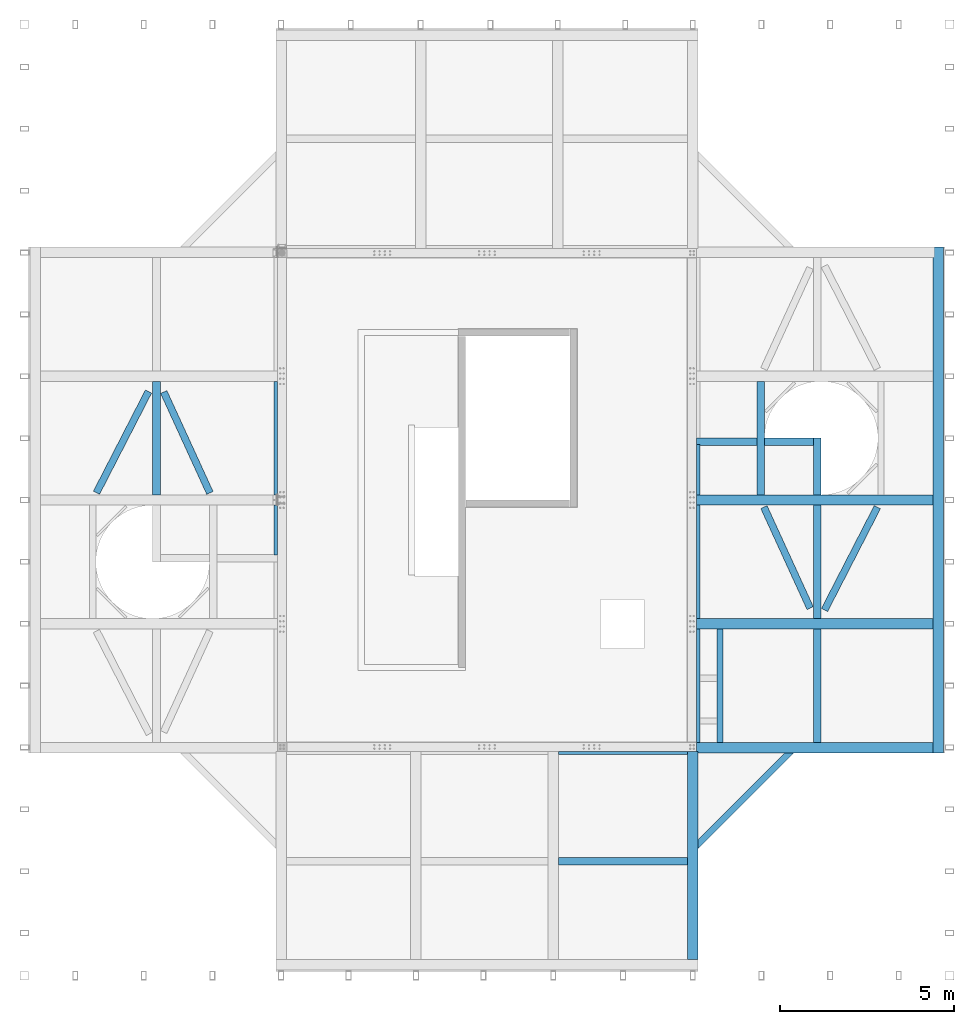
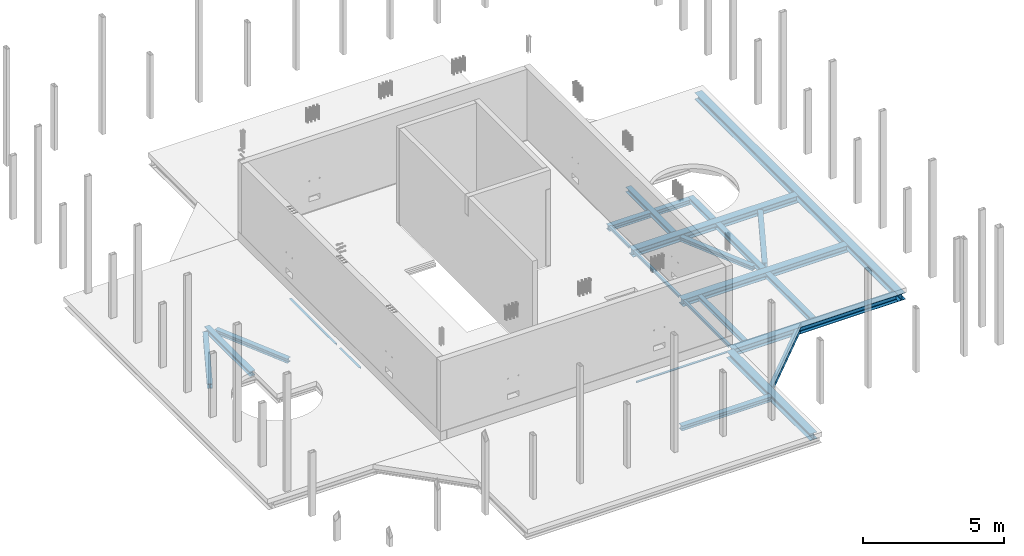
# One storey, part 8 of 16: 25 beams.
"""IFC2X3 building model written with IfcOpenShell, lengths in millimetres."""

from ifc_helpers import new_model, entity, si_unit, converted_unit, derived_unit, direction, frame, frame_2d, origin, place, context, subcontext, project, spatial, polyline, circle_curve, parameter, trimmed, segment, composite_curve, i_section, outline, extrude, clip, halfspace, material, type_object, element, save


model = new_model("IFC2X3")

# Units and contexts
model_context = context("Model", 3, precision=0.01, world=origin(), true_north=direction((6.12303176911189e-17, 1.0)))
body_context = subcontext(model_context, "Body", "Model", "MODEL_VIEW")
ifc_project = project(units=[si_unit("LENGTHUNIT", "METRE", prefix="MILLI"), si_unit("AREAUNIT", "SQUARE_METRE"), si_unit("VOLUMEUNIT", "CUBIC_METRE"), converted_unit("PLANEANGLEUNIT", "DEGREE", entity("IfcRatioMeasure", 0.0174532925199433), si_unit("PLANEANGLEUNIT", "RADIAN"), dimensions=[0, 0, 0, 0, 0, 0, 0]), si_unit("MASSUNIT", "GRAM", prefix="KILO"), derived_unit("MASSDENSITYUNIT", [(si_unit("MASSUNIT", "GRAM", prefix="KILO"), 1), (si_unit("LENGTHUNIT", "METRE"), -3)]), si_unit("TIMEUNIT", "SECOND"), si_unit("FREQUENCYUNIT", "HERTZ"), si_unit("THERMODYNAMICTEMPERATUREUNIT", "DEGREE_CELSIUS"), derived_unit("THERMALTRANSMITTANCEUNIT", [(si_unit("MASSUNIT", "GRAM", prefix="KILO"), 1), (si_unit("THERMODYNAMICTEMPERATUREUNIT", "KELVIN"), -1), (si_unit("TIMEUNIT", "SECOND"), -3)]), derived_unit("VOLUMETRICFLOWRATEUNIT", [(si_unit("LENGTHUNIT", "METRE"), 3), (si_unit("TIMEUNIT", "SECOND"), -1)]), si_unit("ELECTRICCURRENTUNIT", "AMPERE"), si_unit("ELECTRICVOLTAGEUNIT", "VOLT"), si_unit("POWERUNIT", "WATT"), si_unit("FORCEUNIT", "NEWTON", prefix="KILO"), si_unit("ILLUMINANCEUNIT", "LUX"), si_unit("LUMINOUSFLUXUNIT", "LUMEN"), si_unit("LUMINOUSINTENSITYUNIT", "CANDELA"), derived_unit("USERDEFINED", [(si_unit("MASSUNIT", "GRAM", prefix="KILO"), -1), (si_unit("LENGTHUNIT", "METRE"), -2), (si_unit("TIMEUNIT", "SECOND"), 3), (si_unit("LUMINOUSFLUXUNIT", "LUMEN"), 1)]), derived_unit("LINEARVELOCITYUNIT", [(si_unit("LENGTHUNIT", "METRE"), 1), (si_unit("TIMEUNIT", "SECOND"), -1)]), si_unit("PRESSUREUNIT", "PASCAL"), derived_unit("USERDEFINED", [(si_unit("LENGTHUNIT", "METRE"), -2), (si_unit("MASSUNIT", "GRAM", prefix="KILO"), 1), (si_unit("TIMEUNIT", "SECOND"), -2)])], contexts=[model_context])

# Site, building, storey
site_placement = place(None, origin())
site = spatial("IfcSite", under=ifc_project, at=site_placement, Name="Default", CompositionType="ELEMENT")
building_placement = place(site_placement, origin())
building = spatial("IfcBuilding", under=site, at=building_placement, Name="niet gebruiken", CompositionType="ELEMENT")
storey_placement = place(building_placement, frame((0.0, 0.0, 183150.0)))
storey = spatial("IfcBuildingStorey", under=building, at=storey_placement, Name="58 achtenvijftigste verdieping", CompositionType="ELEMENT", Elevation=183150.0)

# Beams
ifc_material = material(Name="NLRS_h2_staal")
beam_type_1 = type_object("IfcBeamType", Name="NLRS_28.11_SF_WPB_stalen ligger HEA_gen:ligger HEA 200", PredefinedType="BEAM")
beam_1_placement = place(storey_placement, frame((151220.0, 13950.0, -570.0), z_axis=(0.0, 0.0, 1.0), x_axis=(0.457206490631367, 0.889360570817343, 0.0)))
element("IfcBeam", 1, at=beam_1_placement, inside=storey, type_object=beam_type_1, material=ifc_material, Name="NLRS_28.11_SF_WPB_stalen ligger HEA_gen:ligger HEA 200", ObjectType="NLRS_28.11_SF_WPB_stalen ligger HEA_gen:ligger HEA 200", context=body_context, shape_type="SweptSolid", body=[
    extrude(i_section(OverallWidth=200.000000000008, OverallDepth=189.999999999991, WebThickness=6.49999999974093, FlangeThickness=9.99999999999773, FilletRadius=17.9999999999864, at=frame_2d((0.0, -1.83888460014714e-11), x_axis=(0.0, 1.0))), frame((445.068952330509, 0.0, -95.0), z_axis=(1.0, 0.0, 0.0), x_axis=(0.0, 0.0, -1.0)), (0.0, 0.0, 1.0), 3313.79396714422),
])
beam_2_placement = place(storey_placement, frame((151220.0, 13950.0, -570.0), z_axis=(0.0, 0.0, 1.0), x_axis=(-0.416213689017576, 0.909266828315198, 0.0)))
element("IfcBeam", 2, at=beam_2_placement, inside=storey, type_object=beam_type_1, material=ifc_material, Name="NLRS_28.11_SF_WPB_stalen ligger HEA_gen:ligger HEA 200", ObjectType="NLRS_28.11_SF_WPB_stalen ligger HEA_gen:ligger HEA 200", context=body_context, shape_type="SweptSolid", body=[
    extrude(i_section(OverallWidth=200.000000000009, OverallDepth=189.999999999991, WebThickness=6.49999999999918, FlangeThickness=9.99999999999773, FilletRadius=17.9999999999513, at=frame_2d((0.0, -4.47641923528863e-13), x_axis=(0.0, 1.0))), frame((495.929224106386, 0.0, -95.0), z_axis=(1.0, 0.0, 0.0), x_axis=(0.0, 0.0, -1.0)), (0.0, 0.0, 1.0), 3184.87253634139),
])
beam_3_placement = place(storey_placement, frame((132280.0, 21050.0, -570.0), z_axis=(0.0, 0.0, 1.0), x_axis=(0.41621368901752, -0.909266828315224, 0.0)))
element("IfcBeam", 3, at=beam_3_placement, inside=storey, type_object=beam_type_1, material=ifc_material, Name="NLRS_28.11_SF_WPB_stalen ligger HEA_gen:ligger HEA 200", ObjectType="NLRS_28.11_SF_WPB_stalen ligger HEA_gen:ligger HEA 200", context=body_context, shape_type="SweptSolid", body=[
    extrude(i_section(OverallWidth=200.000000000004, OverallDepth=189.999999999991, WebThickness=6.50000000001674, FlangeThickness=9.99999999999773, FilletRadius=17.999999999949, at=frame_2d((0.0, 1.84599002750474e-11), x_axis=(0.0, 1.0))), frame((500.742724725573, 0.0, -95.0), z_axis=(1.0, 0.0, 0.0), x_axis=(0.0, 0.0, -1.0)), (0.0, 0.0, 1.0), 3180.05903572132),
])
beam_4_placement = place(storey_placement, frame((132280.0, 21050.0, -570.0), z_axis=(0.0, 0.0, 1.0), x_axis=(-0.457206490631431, -0.88936057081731, 0.0)))
element("IfcBeam", 4, at=beam_4_placement, inside=storey, type_object=beam_type_1, material=ifc_material, Name="NLRS_28.11_SF_WPB_stalen ligger HEA_gen:ligger HEA 200", ObjectType="NLRS_28.11_SF_WPB_stalen ligger HEA_gen:ligger HEA 200", context=body_context, shape_type="SweptSolid", body=[
    extrude(i_section(OverallWidth=199.999999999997, OverallDepth=189.999999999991, WebThickness=6.50000000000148, FlangeThickness=9.99999999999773, FilletRadius=17.9999999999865, at=frame_2d((0.0, 0.0), x_axis=(0.0, 1.0))), frame((495.929224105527, 0.0, -95.0), z_axis=(1.0, 0.0, 0.0), x_axis=(0.0, 0.0, -1.0)), (0.0, 0.0, 1.0), 3262.93369536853),
])
beam_type_2 = type_object("IfcBeamType", Name="NLRS_28.11_SF_WPB_stalen ligger HEA_gen:ligger HEA 220", PredefinedType="BEAM")
beam_5_placement = place(storey_placement, frame((151220.0, 14100.0, -570.0), z_axis=(0.0, 0.0, 1.0), x_axis=(0.0, 1.0, 0.0)))
element("IfcBeam", 5, at=beam_5_placement, inside=storey, type_object=beam_type_2, material=ifc_material, Name="NLRS_28.11_SF_WPB_stalen ligger HEA_gen:ligger HEA 220", ObjectType="NLRS_28.11_SF_WPB_stalen ligger HEA_gen:ligger HEA 220", context=body_context, shape_type="SweptSolid", body=[
    extrude(i_section(OverallWidth=220.000000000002, OverallDepth=209.999999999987, WebThickness=7.00000000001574, FlangeThickness=11.0000000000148, FilletRadius=17.9999999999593, at=frame_2d((-3.46531692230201e-11, -1.73301373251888e-11), x_axis=(0.0, 1.0))), frame((0.0, 0.0, -105.0), z_axis=(1.0, 0.0, 0.0), x_axis=(0.0, 0.0, -1.0)), (0.0, 0.0, 1.0), 3250.0),
])
beam_6_placement = place(storey_placement, frame((132280.0, 20900.0, -570.0), z_axis=(0.0, 0.0, 1.0), x_axis=(0.0, -1.0, 0.0)))
element("IfcBeam", 6, at=beam_6_placement, inside=storey, type_object=beam_type_2, material=ifc_material, Name="NLRS_28.11_SF_WPB_stalen ligger HEA_gen:ligger HEA 220", ObjectType="NLRS_28.11_SF_WPB_stalen ligger HEA_gen:ligger HEA 220", context=body_context, shape_type="SweptSolid", body=[
    extrude(i_section(OverallWidth=220.000000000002, OverallDepth=209.999999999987, WebThickness=7.00000000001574, FlangeThickness=11.0000000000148, FilletRadius=17.9999999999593, at=frame_2d((-3.46531692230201e-11, 1.73301373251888e-11), x_axis=(0.0, 1.0))), frame((0.0, 0.0, -105.0), z_axis=(1.0, 0.0, 0.0), x_axis=(0.0, 0.0, -1.0)), (0.0, 0.0, 1.0), 3250.0),
])
beam_7_placement = place(storey_placement, frame((149595.0, 17650.0, -570.0), z_axis=(0.0, 0.0, 1.0), x_axis=(0.0, 1.0, 0.0)))
element("IfcBeam", 7, at=beam_7_placement, inside=storey, type_object=beam_type_2, material=ifc_material, Name="NLRS_28.11_SF_WPB_stalen ligger HEA_gen:ligger HEA 220", ObjectType="NLRS_28.11_SF_WPB_stalen ligger HEA_gen:ligger HEA 220", context=body_context, shape_type="SweptSolid", body=[
    extrude(i_section(OverallWidth=220.000000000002, OverallDepth=209.999999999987, WebThickness=7.00000000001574, FlangeThickness=11.0000000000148, FilletRadius=17.9999999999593, at=frame_2d((-3.46531692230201e-11, -1.73301373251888e-11), x_axis=(0.0, 1.0))), frame((0.0, 0.0, -105.0), z_axis=(1.0, 0.0, 0.0), x_axis=(0.0, 0.0, -1.0)), (0.0, 0.0, 1.0), 3250.00000000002),
])
beam_8_placement = place(storey_placement, frame((151220.0, 17650.0, -570.0), z_axis=(0.0, 0.0, 1.0), x_axis=(0.0, 1.0, 0.0)))
element("IfcBeam", 8, at=beam_8_placement, inside=storey, type_object=beam_type_2, material=ifc_material, Name="NLRS_28.11_SF_WPB_stalen ligger HEA_gen:ligger HEA 220", ObjectType="NLRS_28.11_SF_WPB_stalen ligger HEA_gen:ligger HEA 220", context=body_context, shape_type="SweptSolid", body=[
    extrude(i_section(OverallWidth=220.000000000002, OverallDepth=209.999999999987, WebThickness=7.00000000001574, FlangeThickness=11.0000000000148, FilletRadius=17.9999999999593, at=frame_2d((-3.46531692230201e-11, 3.46531692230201e-11), x_axis=(0.0, 1.0))), frame((0.0, 0.0, -105.0), z_axis=(1.0, 0.0, 0.0), x_axis=(0.0, 0.0, -1.0)), (0.0, 0.0, 1.0), 1625.0),
])
beam_9_placement = place(storey_placement, frame((151110.0, 19165.0, -570.0), z_axis=(0.0, 0.0, 1.0), x_axis=(-1.0, 0.0, 0.0)))
element("IfcBeam", 9, at=beam_9_placement, inside=storey, type_object=beam_type_2, material=ifc_material, Name="NLRS_28.11_SF_WPB_stalen ligger HEA_gen:ligger HEA 220", ObjectType="NLRS_28.11_SF_WPB_stalen ligger HEA_gen:ligger HEA 220", context=body_context, shape_type="SweptSolid", body=[
    extrude(i_section(OverallWidth=220.000000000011, OverallDepth=209.999999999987, WebThickness=6.99999999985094, FlangeThickness=11.0000000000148, FilletRadius=17.9999999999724, at=frame_2d((-3.46531692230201e-11, 1.08713038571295e-12), x_axis=(0.0, 1.0))), frame((0.0, 0.0, -105.0), z_axis=(1.0, 0.0, 0.0), x_axis=(0.0, 0.0, -1.0)), (0.0, 0.0, 1.0), 1405.00000000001),
])
beam_10_placement = place(storey_placement, frame((149485.0, 19165.0, -570.0), z_axis=(0.0, 0.0, 1.0), x_axis=(-1.0, 0.0, 0.0)))
element("IfcBeam", 10, at=beam_10_placement, inside=storey, type_object=beam_type_2, material=ifc_material, Name="NLRS_28.11_SF_WPB_stalen ligger HEA_gen:ligger HEA 220", ObjectType="NLRS_28.11_SF_WPB_stalen ligger HEA_gen:ligger HEA 220", context=body_context, shape_type="SweptSolid", body=[
    extrude(i_section(OverallWidth=220.000000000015, OverallDepth=209.999999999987, WebThickness=6.99999999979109, FlangeThickness=11.0000000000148, FilletRadius=17.9999999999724, at=frame_2d((-3.46531692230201e-11, 3.24718030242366e-12), x_axis=(0.0, 1.0))), frame((0.0, 0.0, -105.0), z_axis=(1.0, 0.0, 0.0), x_axis=(0.0, 0.0, -1.0)), (0.0, 0.0, 1.0), 1735.00000000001),
])
beam_11_placement = place(storey_placement, frame((143800.0, 7145.0, -570.0)))
element("IfcBeam", 11, at=beam_11_placement, inside=storey, type_object=beam_type_2, material=ifc_material, Name="NLRS_28.11_SF_WPB_stalen ligger HEA_gen:ligger HEA 220", ObjectType="NLRS_28.11_SF_WPB_stalen ligger HEA_gen:ligger HEA 220", context=body_context, shape_type="SweptSolid", body=[
    extrude(i_section(OverallWidth=220.000000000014, OverallDepth=209.999999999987, WebThickness=6.99999999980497, FlangeThickness=10.9999999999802, FilletRadius=17.9999999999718, at=frame_2d((-3.46531692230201e-11, 2.1600499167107e-12), x_axis=(0.0, 1.0))), frame((0.0, 0.0, -105.0), z_axis=(1.0, 0.0, 0.0), x_axis=(0.0, 0.0, -1.0)), (0.0, 0.0, 1.0), 3699.99999999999),
])
beam_12_placement = place(storey_placement, frame((151220.0, 13800.0, -570.0), z_axis=(0.0, 0.0, 1.0), x_axis=(0.0, -1.0, 0.0)))
element("IfcBeam", 12, at=beam_12_placement, inside=storey, type_object=beam_type_2, material=ifc_material, Name="NLRS_28.11_SF_WPB_stalen ligger HEA_gen:ligger HEA 220", ObjectType="NLRS_28.11_SF_WPB_stalen ligger HEA_gen:ligger HEA 220", context=body_context, shape_type="SweptSolid", body=[
    extrude(i_section(OverallWidth=219.999999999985, OverallDepth=209.999999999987, WebThickness=7.00000000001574, FlangeThickness=10.9999999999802, FilletRadius=17.9999999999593, at=frame_2d((-3.46531692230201e-11, -5.19762011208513e-11), x_axis=(0.0, 1.0))), frame((0.0, 0.0, -105.0), z_axis=(1.0, 0.0, 0.0), x_axis=(0.0, 0.0, -1.0)), (0.0, 0.0, 1.0), 3250.0),
])
beam_type_3 = type_object("IfcBeamType", Name="NLRS_28.11_SF_WPB_stalen ligger HEA_gen:ligger HEA 300", PredefinedType="BEAM")
beam_13_placement = place(storey_placement, frame((147650.0, 4336.0, -570.0), z_axis=(0.0, 0.0, 1.0), x_axis=(0.0, 1.0, 0.0)))
element("IfcBeam", 13, at=beam_13_placement, inside=storey, type_object=beam_type_3, material=ifc_material, Name="NLRS_28.11_SF_WPB_stalen ligger HEA_gen:ligger HEA 300", ObjectType="NLRS_28.11_SF_WPB_stalen ligger HEA_gen:ligger HEA 300", context=body_context, shape_type="SweptSolid", body=[
    extrude(i_section(OverallWidth=300.000000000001, OverallDepth=289.999999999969, WebThickness=8.50000000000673, FlangeThickness=13.9999999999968, FilletRadius=27.0000000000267, at=frame_2d((-3.46460637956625e-11, 0.0), x_axis=(0.0, 1.0))), frame((0.0, 0.0, -145.0), z_axis=(1.0, 0.0, 0.0), x_axis=(0.0, 0.0, -1.0)), (0.0, 0.0, 1.0), 5964.0),
])
for number, where, z_axis, x_axis, name in (
    (14, (154539.0, 10400.0, -570.0), (0.0, 0.0, 1.0), (-1.0, 0.0, 0.0), "NLRS_28.11_SF_WPB_stalen ligger HEA_gen:ligger HEA 300"),
    (15, (154539.0, 13950.0, -570.0), (0.0, 0.0, 1.0), (-1.0, 0.0, 0.0), "NLRS_28.11_SF_WPB_stalen ligger HEA_gen:ligger HEA 300"),
):
    element("IfcBeam", number, at=place(storey_placement, frame(where, z_axis=z_axis, x_axis=x_axis)), inside=storey, type_object=beam_type_3, material=ifc_material, Name=name, ObjectType="NLRS_28.11_SF_WPB_stalen ligger HEA_gen:ligger HEA 300", context=body_context, shape_type="SweptSolid", body=[
        extrude(i_section(OverallWidth=300.000000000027, OverallDepth=289.999999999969, WebThickness=8.49999999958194, FlangeThickness=13.9999999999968, FilletRadius=27.0000000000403, at=frame_2d((-3.46602746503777e-11, 0.0), x_axis=(0.0, 1.0))), frame((0.0, 0.0, -145.0), z_axis=(1.0, 0.0, 0.0), x_axis=(0.0, 0.0, -1.0)), (0.0, 0.0, 1.0), 6789.0),
    ])
beam_14_placement = place(storey_placement, frame((154838.998996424, 10250.0, -570.0), z_axis=(0.0, 0.0, 1.0), x_axis=(0.0, 1.0, 0.0)))
element("IfcBeam", 16, at=beam_14_placement, inside=storey, type_object=beam_type_3, material=ifc_material, Name="NLRS_28.11_SF_WPB_stalen ligger HEA_gen:ligger HEA 300", ObjectType="NLRS_28.11_SF_WPB_stalen ligger HEA_gen:ligger HEA 300", context=body_context, shape_type="SweptSolid", body=[
    extrude(i_section(OverallWidth=300.000000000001, OverallDepth=290.000000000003, WebThickness=8.50000000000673, FlangeThickness=14.0000000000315, FilletRadius=27.0000000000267, at=frame_2d((-3.46460637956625e-11, 0.0), x_axis=(0.0, 1.0))), frame((0.0, 150.0, -145.0), z_axis=(1.0, 0.0, 0.0), x_axis=(0.0, 0.0, -1.0)), (0.0, 0.0, 1.0), 14499.9999999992),
])
beam_type_4 = type_object("IfcBeamType", Name="NLRS_28.11_SF_WPB_stalen ligger HEB_gen:ligger HEB 300", PredefinedType="BEAM")
beam_15_placement = place(storey_placement, frame((154539.0, 17500.0, -570.0), z_axis=(0.0, 0.0, 1.0), x_axis=(-1.0, 0.0, 0.0)))
element("IfcBeam", 17, at=beam_15_placement, inside=storey, type_object=beam_type_4, material=ifc_material, Name="NLRS_28.11_SF_WPB_stalen ligger HEB_gen:ligger HEB 300", ObjectType="NLRS_28.11_SF_WPB_stalen ligger HEB_gen:ligger HEB 300", context=body_context, shape_type="SweptSolid", body=[
    extrude(i_section(OverallWidth=300.000000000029, OverallDepth=300.000000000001, WebThickness=10.9999999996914, FlangeThickness=18.9999999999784, FilletRadius=27.0000000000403, at=frame_2d((0.0, 4.33431068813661e-12), x_axis=(0.0, 1.0))), frame((0.0, 0.0, -150.0), z_axis=(1.0, 0.0, 0.0), x_axis=(0.0, 0.0, -1.0)), (0.0, 0.0, 1.0), 6789.0),
])
beam_type_5 = type_object("IfcBeamType", Name="NLRS_28.11_SF_WPB_stalen ligger HEA_gen:ligger HEA 180", PredefinedType="BEAM")
beam_16_placement = place(storey_placement, frame((150725.63491861, 10562.9141392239, -570.0), z_axis=(0.0, 0.0, 1.0), x_axis=(-0.707106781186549, -0.707106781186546, 0.0)))
element("IfcBeam", 18, at=beam_16_placement, inside=storey, type_object=beam_type_5, material=ifc_material, Name="NLRS_28.11_SF_WPB_stalen ligger HEA_gen:ligger HEA 180", ObjectType="NLRS_28.11_SF_WPB_stalen ligger HEA_gen:ligger HEA 180", context=body_context, shape_type="Clipping", body=[
    clip(clip(extrude(outline(composite_curve([segment(polyline([(76.0, -90.0), (85.5000000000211, -90.0)]), True, "CONTINUOUS"), segment(polyline([(85.5000000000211, -90.0), (85.499999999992, 90.0)]), True, "CONTINUOUS"), segment(polyline([(85.499999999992, 90.0), (76.0, 90.0)]), True, "CONTINUOUS"), segment(polyline([(76.0, 90.0), (76.0, 18.0)]), True, "CONTINUOUS"), segment(trimmed(circle_curve(frame_2d((61.0, 18.0), x_axis=(1.0, 0.0)), 15.0000000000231), [parameter(270.000000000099)], [parameter(0.0)], True, "PARAMETER"), False, "CONTINUOUS"), segment(polyline([(61.0, 3.0), (-61.0, 3.0)]), True, "CONTINUOUS"), segment(trimmed(circle_curve(frame_2d((-61.0, 18.0), x_axis=(0.0, -1.0)), 15.0000000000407), [parameter(270.000000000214)], [parameter(0.0)], True, "PARAMETER"), False, "CONTINUOUS"), segment(polyline([(-76.0, 18.0), (-76.0, 90.0)]), True, "CONTINUOUS"), segment(polyline([(-76.0, 90.0), (-85.5000000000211, 90.0)]), True, "CONTINUOUS"), segment(polyline([(-85.5000000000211, 90.0), (-85.499999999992, -90.0)]), True, "CONTINUOUS"), segment(polyline([(-85.499999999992, -90.0), (-76.0, -90.0)]), True, "CONTINUOUS"), segment(polyline([(-76.0, -90.0), (-76.0, -18.0)]), True, "CONTINUOUS"), segment(trimmed(circle_curve(frame_2d((-61.0, -18.0), x_axis=(-1.0, 0.0)), 15.0000000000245), [parameter(270.000000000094)], [parameter(0.0)], True, "PARAMETER"), False, "CONTINUOUS"), segment(polyline([(-61.0, -3.0), (61.0, -3.0)]), True, "CONTINUOUS"), segment(trimmed(circle_curve(frame_2d((61.0, -18.0), x_axis=(0.0, 1.0)), 15.0000000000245), [parameter(270.000000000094)], [parameter(0.0)], True, "PARAMETER"), False, "CONTINUOUS"), segment(polyline([(76.0, -18.0), (76.0, -90.0)]), True, "CONTINUOUS")], self_intersect=False)), frame((352.527419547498, 0.0, -85.5000000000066), z_axis=(1.0, 0.0, 0.0), x_axis=(0.0, 0.0, -1.0)), (0.0, 0.0, 1.0), 3874.94516090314), halfspace(frame((869.302913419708, -426.775493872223, 4954.49999999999), z_axis=(-0.707106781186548, -0.707106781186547, 0.0), x_axis=(0.0, 0.0, -1.0)), False)), halfspace(frame((17001.4319733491, 12863.9593928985, 2165.0), z_axis=(0.707106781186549, -0.707106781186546, 0.0), x_axis=(0.707106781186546, 0.707106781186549, 0.0)), False)),
])
beam_17_placement = place(storey_placement, frame((148430.0, 10550.0, -570.0), z_axis=(0.0, 0.0, 1.0), x_axis=(0.0, 1.0, 0.0)))
element("IfcBeam", 19, at=beam_17_placement, inside=storey, type_object=beam_type_5, material=ifc_material, Name="NLRS_28.11_SF_WPB_stalen ligger HEA_gen:ligger HEA 180", ObjectType="NLRS_28.11_SF_WPB_stalen ligger HEA_gen:ligger HEA 180", context=body_context, shape_type="SweptSolid", body=[
    extrude(i_section(OverallWidth=179.999999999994, OverallDepth=171.000000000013, WebThickness=5.99999999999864, FlangeThickness=9.49999999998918, FilletRadius=15.0000000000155, at=frame_2d((-3.46460637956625e-11, 0.0), x_axis=(0.0, 1.0))), frame((0.0, 0.0, -85.5000000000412), z_axis=(1.0, 0.0, 0.0), x_axis=(0.0, 0.0, -1.0)), (0.0, 0.0, 1.0), 3250.00000000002),
])
beam_type_6 = type_object("IfcBeamType", Name="NLRS_28.11_SF_WPB_stalen ligger hoekprofiel gelijkzijdig_gen:ligger gelijzijdig hoekprofiel LEQU_100x100x10", PredefinedType="BEAM")
beam_18_placement = place(storey_placement, frame((135750.0, 20900.0, -570.0), z_axis=(0.0, 0.0, 1.0), x_axis=(0.0, -1.0, 0.0)))
element("IfcBeam", 20, at=beam_18_placement, inside=storey, type_object=beam_type_6, material=ifc_material, Name="NLRS_28.11_SF_WPB_stalen ligger hoekprofiel gelijkzijdig_gen:ligger gelijzijdig hoekprofiel LEQU_100x100x10", ObjectType="NLRS_28.11_SF_WPB_stalen ligger hoekprofiel gelijkzijdig_gen:ligger gelijzijdig hoekprofiel LEQU_100x100x10", context=body_context, shape_type="SweptSolid", body=[
    extrude(outline(composite_curve([segment(polyline([(-37.7777777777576, -62.2222222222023), (-33.7777777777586, -62.2222222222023)]), True, "CONTINUOUS"), segment(trimmed(circle_curve(frame_2d((-33.7777777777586, -56.222222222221), x_axis=(0.0, -1.0)), 5.99999999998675), [parameter(0.0)], [parameter(90.0000000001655)], True, "PARAMETER"), True, "CONTINUOUS"), segment(polyline([(-27.7777777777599, -56.2222222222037), (-27.7777777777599, 15.7777777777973)]), True, "CONTINUOUS"), segment(trimmed(circle_curve(frame_2d((-15.7777777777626, 15.7777777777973), x_axis=(-1.0, 0.0)), 12.0000000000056), [parameter(270.0)], [parameter(0.0)], True, "PARAMETER"), False, "CONTINUOUS"), segment(polyline([(-15.7777777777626, 27.7777777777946), (56.222222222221, 27.7777777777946)]), True, "CONTINUOUS"), segment(trimmed(circle_curve(frame_2d((56.2222222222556, 33.7777777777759), x_axis=(0.0, -1.0)), 5.99999999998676), [parameter(0.0)], [parameter(90.0000000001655)], True, "PARAMETER"), True, "CONTINUOUS"), segment(polyline([(62.2222222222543, 33.7777777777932), (62.2222222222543, 37.7777777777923)]), True, "CONTINUOUS"), segment(polyline([(62.2222222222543, 37.7777777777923), (-37.7777777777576, 37.7777777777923)]), True, "CONTINUOUS"), segment(polyline([(-37.7777777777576, 37.7777777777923), (-37.7777777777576, -62.2222222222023)]), True, "CONTINUOUS")], self_intersect=False)), frame((0.0, -37.7777777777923, -37.7777777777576), z_axis=(1.0, 0.0, 0.0), x_axis=(0.0, 0.0, -1.0)), (0.0, 0.0, 1.0), 3250.0),
])
beam_19_placement = place(storey_placement, frame((143800.0, 10300.0, -570.0)))
element("IfcBeam", 21, at=beam_19_placement, inside=storey, type_object=beam_type_6, material=ifc_material, Name="NLRS_28.11_SF_WPB_stalen ligger hoekprofiel gelijkzijdig_gen:ligger gelijzijdig hoekprofiel LEQU_100x100x10", ObjectType="NLRS_28.11_SF_WPB_stalen ligger hoekprofiel gelijkzijdig_gen:ligger gelijzijdig hoekprofiel LEQU_100x100x10", context=body_context, shape_type="SweptSolid", body=[
    extrude(outline(composite_curve([segment(polyline([(-37.7777777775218, -62.222222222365), (-33.7777777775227, -62.222222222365)]), True, "CONTINUOUS"), segment(trimmed(circle_curve(frame_2d((-33.7777777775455, -56.2222222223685), x_axis=(0.0, -1.0)), 5.9999999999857), [parameter(0.0)], [parameter(90.0000000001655)], True, "PARAMETER"), True, "CONTINUOUS"), segment(polyline([(-27.7777777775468, -56.2222222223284), (-27.7777777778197, 15.7777777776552)]), True, "CONTINUOUS"), segment(trimmed(circle_curve(frame_2d((-15.7777777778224, 15.7777777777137), x_axis=(-1.0, 0.0)), 12.000000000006), [parameter(270.000000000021)], [parameter(0.0)], True, "PARAMETER"), False, "CONTINUOUS"), segment(polyline([(-15.7777777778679, 27.7777777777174), (56.2222222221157, 27.7777777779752)]), True, "CONTINUOUS"), segment(trimmed(circle_curve(frame_2d((56.2222222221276, 33.7777777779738), x_axis=(0.0, -1.0)), 5.99999999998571), [parameter(0.0)], [parameter(90.0000000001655)], True, "PARAMETER"), True, "CONTINUOUS"), segment(polyline([(62.2222222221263, 33.7777777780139), (62.2222222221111, 37.777777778)]), True, "CONTINUOUS"), segment(polyline([(62.2222222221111, 37.7777777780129), (-37.7777777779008, 37.7777777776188)]), True, "CONTINUOUS"), segment(polyline([(-37.7777777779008, 37.7777777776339), (-37.7777777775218, -62.2222222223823)]), True, "CONTINUOUS")], self_intersect=False)), frame((0.0, -37.7777777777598, -37.7777777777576), z_axis=(1.0, 0.0, 0.0), x_axis=(0.0, 0.0, -1.0)), (0.0, 0.0, 1.0), 3699.99999999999),
])
beam_20_placement = place(storey_placement, frame((147750.0, 10550.3287196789, -570.0), z_axis=(0.0, 0.0, 1.0), x_axis=(0.0, 1.0, 0.0)))
element("IfcBeam", 22, at=beam_20_placement, inside=storey, type_object=beam_type_6, material=ifc_material, Name="NLRS_28.11_SF_WPB_stalen ligger hoekprofiel gelijkzijdig_gen:ligger gelijzijdig hoekprofiel LEQU_100x100x10", ObjectType="NLRS_28.11_SF_WPB_stalen ligger hoekprofiel gelijkzijdig_gen:ligger gelijzijdig hoekprofiel LEQU_100x100x10", context=body_context, shape_type="SweptSolid", body=[
    extrude(outline(composite_curve([segment(polyline([(-37.7777777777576, -62.2222222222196), (-33.7777777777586, -62.2222222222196)]), True, "CONTINUOUS"), segment(trimmed(circle_curve(frame_2d((-33.7777777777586, -56.2222222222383), x_axis=(0.0, -1.0)), 5.99999999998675), [parameter(0.0)], [parameter(90.0000000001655)], True, "PARAMETER"), True, "CONTINUOUS"), segment(polyline([(-27.7777777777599, -56.222222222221), (-27.7777777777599, 15.77777777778)]), True, "CONTINUOUS"), segment(trimmed(circle_curve(frame_2d((-15.7777777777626, 15.77777777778), x_axis=(-1.0, 0.0)), 12.0000000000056), [parameter(270.0)], [parameter(0.0)], True, "PARAMETER"), False, "CONTINUOUS"), segment(polyline([(-15.7777777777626, 27.7777777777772), (56.222222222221, 27.7777777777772)]), True, "CONTINUOUS"), segment(trimmed(circle_curve(frame_2d((56.2222222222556, 33.7777777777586), x_axis=(0.0, -1.0)), 5.99999999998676), [parameter(0.0)], [parameter(90.0000000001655)], True, "PARAMETER"), True, "CONTINUOUS"), segment(polyline([(62.2222222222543, 33.7777777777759), (62.2222222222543, 37.777777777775)]), True, "CONTINUOUS"), segment(polyline([(62.2222222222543, 37.777777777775), (-37.7777777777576, 37.777777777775)]), True, "CONTINUOUS"), segment(polyline([(-37.7777777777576, 37.777777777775), (-37.7777777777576, -62.2222222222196)]), True, "CONTINUOUS")], self_intersect=False)), frame((0.0, -37.7777777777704, -37.7777777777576), z_axis=(1.0, 0.0, 0.0), x_axis=(0.0, 0.0, -1.0)), (0.0, 0.0, 1.0), 3250.0),
])
beam_21_placement = place(storey_placement, frame((147750.0, 14100.3287196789, -570.0), z_axis=(0.0, 0.0, 1.0), x_axis=(0.0, 1.0, 0.0)))
element("IfcBeam", 23, at=beam_21_placement, inside=storey, type_object=beam_type_6, material=ifc_material, Name="NLRS_28.11_SF_WPB_stalen ligger hoekprofiel gelijkzijdig_gen:ligger gelijzijdig hoekprofiel LEQU_100x100x10", ObjectType="NLRS_28.11_SF_WPB_stalen ligger hoekprofiel gelijkzijdig_gen:ligger gelijzijdig hoekprofiel LEQU_100x100x10", context=body_context, shape_type="SweptSolid", body=[
    extrude(outline(composite_curve([segment(polyline([(-37.7777777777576, -62.2222222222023), (-33.7777777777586, -62.2222222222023)]), True, "CONTINUOUS"), segment(trimmed(circle_curve(frame_2d((-33.7777777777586, -56.222222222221), x_axis=(0.0, -1.0)), 5.99999999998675), [parameter(0.0)], [parameter(90.0000000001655)], True, "PARAMETER"), True, "CONTINUOUS"), segment(polyline([(-27.7777777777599, -56.2222222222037), (-27.7777777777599, 15.7777777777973)]), True, "CONTINUOUS"), segment(trimmed(circle_curve(frame_2d((-15.7777777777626, 15.7777777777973), x_axis=(-1.0, 0.0)), 12.0000000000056), [parameter(270.0)], [parameter(0.0)], True, "PARAMETER"), False, "CONTINUOUS"), segment(polyline([(-15.7777777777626, 27.7777777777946), (56.222222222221, 27.7777777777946)]), True, "CONTINUOUS"), segment(trimmed(circle_curve(frame_2d((56.2222222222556, 33.7777777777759), x_axis=(0.0, -1.0)), 5.99999999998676), [parameter(0.0)], [parameter(90.0000000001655)], True, "PARAMETER"), True, "CONTINUOUS"), segment(polyline([(62.2222222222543, 33.7777777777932), (62.2222222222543, 37.7777777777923)]), True, "CONTINUOUS"), segment(polyline([(62.2222222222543, 37.7777777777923), (-37.7777777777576, 37.7777777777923)]), True, "CONTINUOUS"), segment(polyline([(-37.7777777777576, 37.7777777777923), (-37.7777777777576, -62.2222222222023)]), True, "CONTINUOUS")], self_intersect=False)), frame((0.0, -37.7777777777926, -37.7777777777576), z_axis=(1.0, 0.0, 0.0), x_axis=(0.0, 0.0, -1.0)), (0.0, 0.0, 1.0), 3250.0),
])
beam_22_placement = place(storey_placement, frame((147750.0, 17650.0, -570.0), z_axis=(0.0, 0.0, 1.0), x_axis=(0.0, 1.0, 0.0)))
element("IfcBeam", 24, at=beam_22_placement, inside=storey, type_object=beam_type_6, material=ifc_material, Name="NLRS_28.11_SF_WPB_stalen ligger hoekprofiel gelijkzijdig_gen:ligger gelijzijdig hoekprofiel LEQU_100x100x10", ObjectType="NLRS_28.11_SF_WPB_stalen ligger hoekprofiel gelijkzijdig_gen:ligger gelijzijdig hoekprofiel LEQU_100x100x10", context=body_context, shape_type="SweptSolid", body=[
    extrude(outline(composite_curve([segment(polyline([(-37.7777777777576, -62.2222222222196), (-33.7777777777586, -62.2222222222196)]), True, "CONTINUOUS"), segment(trimmed(circle_curve(frame_2d((-33.7777777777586, -56.2222222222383), x_axis=(0.0, -1.0)), 5.99999999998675), [parameter(0.0)], [parameter(90.0000000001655)], True, "PARAMETER"), True, "CONTINUOUS"), segment(polyline([(-27.7777777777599, -56.222222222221), (-27.7777777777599, 15.77777777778)]), True, "CONTINUOUS"), segment(trimmed(circle_curve(frame_2d((-15.7777777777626, 15.77777777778), x_axis=(-1.0, 0.0)), 12.0000000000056), [parameter(270.0)], [parameter(0.0)], True, "PARAMETER"), False, "CONTINUOUS"), segment(polyline([(-15.7777777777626, 27.7777777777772), (56.222222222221, 27.7777777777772)]), True, "CONTINUOUS"), segment(trimmed(circle_curve(frame_2d((56.2222222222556, 33.7777777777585), x_axis=(0.0, -1.0)), 5.99999999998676), [parameter(0.0)], [parameter(90.0000000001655)], True, "PARAMETER"), True, "CONTINUOUS"), segment(polyline([(62.2222222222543, 33.7777777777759), (62.2222222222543, 37.777777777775)]), True, "CONTINUOUS"), segment(polyline([(62.2222222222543, 37.777777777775), (-37.7777777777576, 37.777777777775)]), True, "CONTINUOUS"), segment(polyline([(-37.7777777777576, 37.777777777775), (-37.7777777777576, -62.2222222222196)]), True, "CONTINUOUS")], self_intersect=False)), frame((0.0, -37.7777777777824, -37.7777777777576), z_axis=(1.0, 0.0, 0.0), x_axis=(0.0, 0.0, -1.0)), (0.0, 0.0, 1.0), 1445.0),
])
beam_23_placement = place(storey_placement, frame((135750.0, 17350.0, -570.0), z_axis=(0.0, 0.0, 1.0), x_axis=(0.0, -1.0, 0.0)))
element("IfcBeam", 25, at=beam_23_placement, inside=storey, type_object=beam_type_6, material=ifc_material, Name="NLRS_28.11_SF_WPB_stalen ligger hoekprofiel gelijkzijdig_gen:ligger gelijzijdig hoekprofiel LEQU_100x100x10", ObjectType="NLRS_28.11_SF_WPB_stalen ligger hoekprofiel gelijkzijdig_gen:ligger gelijzijdig hoekprofiel LEQU_100x100x10", context=body_context, shape_type="SweptSolid", body=[
    extrude(outline(composite_curve([segment(polyline([(-37.7777777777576, -62.2222222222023), (-33.7777777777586, -62.2222222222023)]), True, "CONTINUOUS"), segment(trimmed(circle_curve(frame_2d((-33.7777777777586, -56.222222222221), x_axis=(0.0, -1.0)), 5.99999999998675), [parameter(0.0)], [parameter(90.0000000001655)], True, "PARAMETER"), True, "CONTINUOUS"), segment(polyline([(-27.7777777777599, -56.2222222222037), (-27.7777777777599, 15.7777777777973)]), True, "CONTINUOUS"), segment(trimmed(circle_curve(frame_2d((-15.7777777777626, 15.7777777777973), x_axis=(-1.0, 0.0)), 12.0000000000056), [parameter(270.0)], [parameter(0.0)], True, "PARAMETER"), False, "CONTINUOUS"), segment(polyline([(-15.7777777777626, 27.7777777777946), (56.222222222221, 27.7777777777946)]), True, "CONTINUOUS"), segment(trimmed(circle_curve(frame_2d((56.2222222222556, 33.7777777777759), x_axis=(0.0, -1.0)), 5.99999999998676), [parameter(0.0)], [parameter(90.0000000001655)], True, "PARAMETER"), True, "CONTINUOUS"), segment(polyline([(62.2222222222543, 33.7777777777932), (62.2222222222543, 37.7777777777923)]), True, "CONTINUOUS"), segment(polyline([(62.2222222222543, 37.7777777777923), (-37.7777777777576, 37.7777777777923)]), True, "CONTINUOUS"), segment(polyline([(-37.7777777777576, 37.7777777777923), (-37.7777777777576, -62.2222222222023)]), True, "CONTINUOUS")], self_intersect=False)), frame((0.0, -37.7777777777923, -37.7777777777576), z_axis=(1.0, 0.0, 0.0), x_axis=(0.0, 0.0, -1.0)), (0.0, 0.0, 1.0), 1425.0),
])

save(model, "model.ifc")
